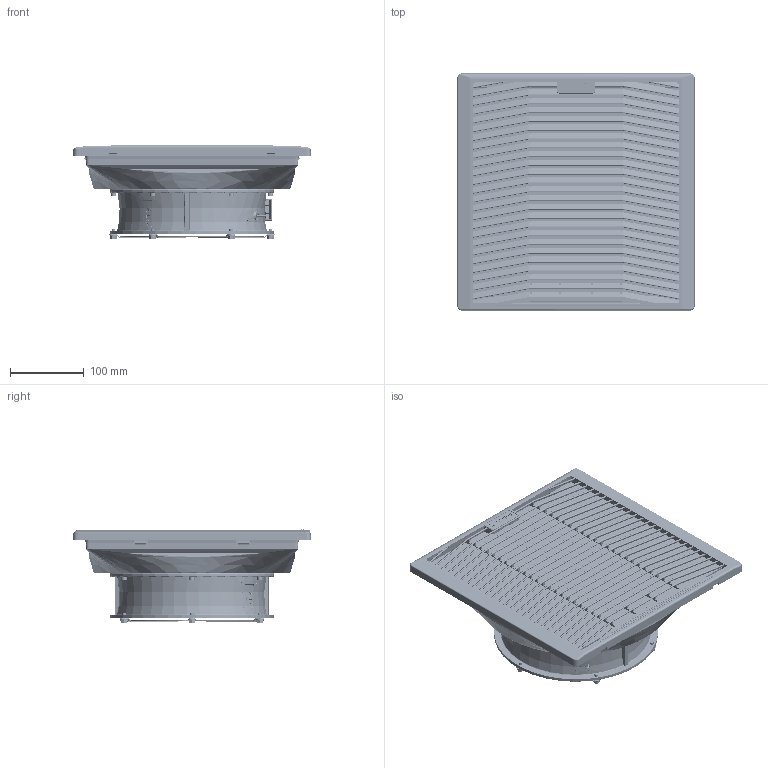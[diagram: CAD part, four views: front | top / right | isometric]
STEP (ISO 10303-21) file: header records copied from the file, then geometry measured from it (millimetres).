
FILE_DESCRIPTION(/* description */ (''),/* implementation_level */ '2;1');
FILE_NAME(/* name */ 'D:\Котлубовский\Впускные решётки\KIPVENT-500.01.230\KIPVENT-500.01.230 Впускная решётка в сборе.stp',/* time_stamp */ '2022-02-28T20:16:53+07:00',/* author */ ('YURY_'),/* organization */ (''),/* preprocessor_version */ 'ST-DEVELOPER v17.2',/* originating_system */ 'Autodesk Inventor 2019',/* authorisation */ '');
FILE_SCHEMA (('AUTOMOTIVE_DESIGN { 1 0 10303 214 3 1 1 }'));
Products named in the file (18): KIPVENT-500.01.230 Впускная решётка 
в сборе; KIPVENT-500.01.230 Впускная решётка 
в сборе_1; KIPVENT-500.01.230 Корпус; KIPVENT-500.01.230 Решётка; KIPVENT-500.01.300 Фильтр; VENT-220; VENT-22260.24VDC.5MRHB Вентилятор 
в сборе; Корпус VENT-22260.24VDC.5MR
HB; Крыльчатка VENT
-22260.24VDC.5MRHB; Короб VENT-22260.24VDC.5MRHB; Клипса VENT-22260.24VDC.5MR
HB; Провод VENT-22260.24VDC.5MR
HB; Винт 2.M4-6gx18 ГОСТ 
17475-80; Табличка VENT-22260.2
4VDC.5MRHB; Болт M5-6gx10 ГОСТ 
7805-70; Шайба 5 ГОСТ 
11371-78; Винт M4-6gx12 ГОСТ 
11738-84; Шайба 4 ГОСТ 
11371-78
Assembly tree (37 placements, depth 3):
  KIPVENT-500.01.230 Впускная решётка 
в сборе
    KIPVENT-500.01.230 Впускная решётка 
в сборе_1
      KIPVENT-500.01.230 Корпус
      KIPVENT-500.01.230 Решётка
      KIPVENT-500.01.300 Фильтр
    VENT-220
    VENT-22260.24VDC.5MRHB Вентилятор 
в сборе
      Корпус VENT-22260.24VDC.5MR
HB
      Крыльчатка VENT
-22260.24VDC.5MRHB
      Короб VENT-22260.24VDC.5MRHB
      Клипса VENT-22260.24VDC.5MR
HB
      Провод VENT-22260.24VDC.5MR
HB
      Винт 2.M4-6gx18 ГОСТ 
17475-80
      Табличка VENT-22260.2
4VDC.5MRHB
    Болт M5-6gx10 ГОСТ 
7805-70  x6
    Шайба 5 ГОСТ 
11371-78  x6
    Винт M4-6gx12 ГОСТ 
11738-84  x6
    Шайба 4 ГОСТ 
11371-78  x6
Bounding box: 321 x 321 x 126.45 mm (x, y, z)
Volume: 2157024.5 mm3; surface area: 1006990.5 mm2
Topology: 40 solids, 40 shells, 10712 faces, 27883 edges, 17676 vertices
Faces by surface type: plane 4984, bspline 3096, cylinder 1182, cone 784, torus 404, sphere 262
Full cylindrical faces by diameter (mm): 1.5 x2, 1.75 x36, 1.8 x2, 2.5 x8, 3 x8, 3.242 x16, 3.712 x1, 4 x8, 4.134 x12, 4.3 x6, 4.7 x6, 5 x7, 5.3 x6, 5.6 x1, 6 x6, 6.8 x1, 7 x7, 7.4 x1, 8.2 x2, 9 x6, 9.7 x2, 10 x12, 39 x1, 44.2 x1, 68 x1, 69 x1, 88.7 x1, 202 x1, 222 x2
Entity records: 380464 total; most frequent: CARTESIAN_POINT 140260, ORIENTED_EDGE 54690, DIRECTION 40707, EDGE_CURVE 27345, VERTEX_POINT 17365, LINE 15023, VECTOR 15023, AXIS2_PLACEMENT_3D 12842
